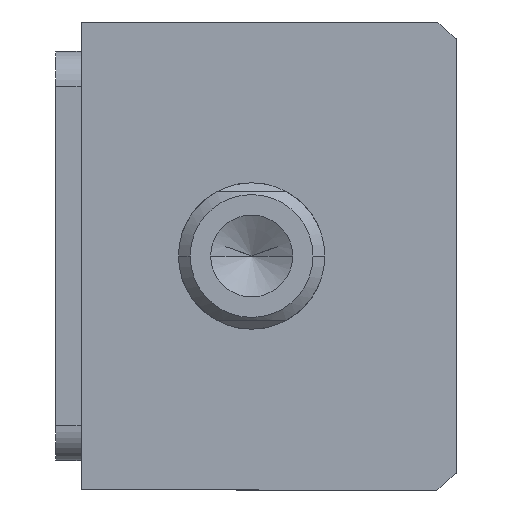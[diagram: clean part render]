
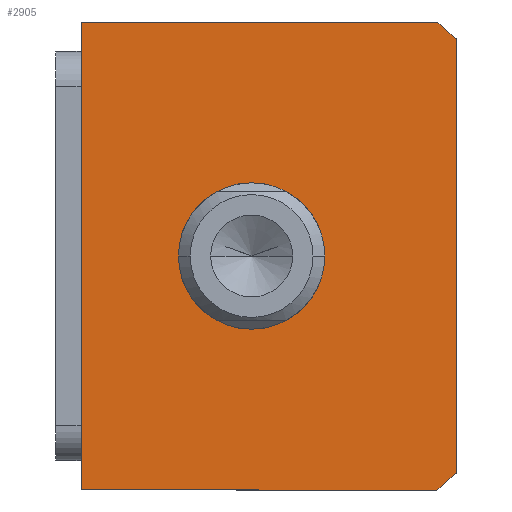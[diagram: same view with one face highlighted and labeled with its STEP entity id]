
A CAD part, front view. The second image highlights one B-rep face of the part: STEP entity #2905.
In plain terms, the highlighted planar face has unit normal (0, -1, 0) as drawn and (0, 0, -1) by its records, which use the part's own axes.
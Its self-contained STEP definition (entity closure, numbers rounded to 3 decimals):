
#63 = DIRECTION ( 'NONE',  ( 1., 0., 0. ) ) ;
#75 = EDGE_LOOP ( 'NONE', ( #6058, #1404, #879, #7527, #2909, #2636 ) ) ;
#106 = ORIENTED_EDGE ( 'NONE', *, *, #4242, .T. ) ;
#175 = VERTEX_POINT ( 'NONE', #2724 ) ;
#619 = VERTEX_POINT ( 'NONE', #7322 ) ;
#622 = AXIS2_PLACEMENT_3D ( 'NONE', #9047, #4139, #9883 ) ;
#760 = PLANE ( 'NONE',  #4430 ) ;
#879 = ORIENTED_EDGE ( 'NONE', *, *, #10485, .F. ) ;
#981 = DIRECTION ( 'NONE',  ( 0., 0., 1. ) ) ;
#1055 = EDGE_CURVE ( 'NONE', #619, #2353, #10554, .T. ) ;
#1089 = LINE ( 'NONE', #3718, #2532 ) ;
#1404 = ORIENTED_EDGE ( 'NONE', *, *, #1055, .F. ) ;
#1406 = LINE ( 'NONE', #5173, #8494 ) ;
#1492 = DIRECTION ( 'NONE',  ( 0., 0., 1. ) ) ;
#1531 = DIRECTION ( 'NONE',  ( 1., 0., 0. ) ) ;
#1641 = EDGE_CURVE ( 'NONE', #8469, #7618, #1089, .T. ) ;
#1870 = DIRECTION ( 'NONE',  ( -1., 0., 0. ) ) ;
#1878 = CARTESIAN_POINT ( 'NONE',  ( 40., -28.639, 0. ) ) ;
#1989 = CIRCLE ( 'NONE', #4909, 51. ) ;
#2353 = VERTEX_POINT ( 'NONE', #8328 ) ;
#2383 = CARTESIAN_POINT ( 'NONE',  ( 12.5, 3., 0. ) ) ;
#2418 = CARTESIAN_POINT ( 'NONE',  ( 0., 0., 0. ) ) ;
#2532 = VECTOR ( 'NONE', #4528, 1000. ) ;
#2636 = ORIENTED_EDGE ( 'NONE', *, *, #2800, .F. ) ;
#2724 = CARTESIAN_POINT ( 'NONE',  ( -12.5, 3., 0. ) ) ;
#2800 = EDGE_CURVE ( 'NONE', #5036, #9591, #5646, .T. ) ;
#2860 = VERTEX_POINT ( 'NONE', #2383 ) ;
#2905 = ADVANCED_FACE ( 'NONE', ( #5136, #7575 ), #760, .F. ) ;
#2909 = ORIENTED_EDGE ( 'NONE', *, *, #6379, .F. ) ;
#2963 = VECTOR ( 'NONE', #5506, 1000. ) ;
#3433 = DIRECTION ( 'NONE',  ( 0., 0., 1. ) ) ;
#3718 = CARTESIAN_POINT ( 'NONE',  ( 40., 32., 0. ) ) ;
#4048 = CARTESIAN_POINT ( 'NONE',  ( -37.094, -32., 0. ) ) ;
#4139 = DIRECTION ( 'NONE',  ( 0., 0., 1. ) ) ;
#4242 = EDGE_CURVE ( 'NONE', #2860, #175, #5508, .T. ) ;
#4289 = AXIS2_PLACEMENT_3D ( 'NONE', #8301, #3433, #9145 ) ;
#4430 = AXIS2_PLACEMENT_3D ( 'NONE', #2418, #1492, #1531 ) ;
#4528 = DIRECTION ( 'NONE',  ( 0., 1., 0. ) ) ;
#4909 = AXIS2_PLACEMENT_3D ( 'NONE', #5934, #981, #6755 ) ;
#5036 = VERTEX_POINT ( 'NONE', #4048 ) ;
#5047 = DIRECTION ( 'NONE',  ( 0., 0., 1. ) ) ;
#5136 = FACE_BOUND ( 'NONE', #7489, .T. ) ;
#5162 = CIRCLE ( 'NONE', #6339, 12.5 ) ;
#5173 = CARTESIAN_POINT ( 'NONE',  ( -40., 32., 0. ) ) ;
#5264 = CARTESIAN_POINT ( 'NONE',  ( -40., 32., 0. ) ) ;
#5437 = CARTESIAN_POINT ( 'NONE',  ( -40., -32., 0. ) ) ;
#5506 = DIRECTION ( 'NONE',  ( 1., 0., 0. ) ) ;
#5508 = CIRCLE ( 'NONE', #622, 12.5 ) ;
#5646 = LINE ( 'NONE', #5437, #2963 ) ;
#5796 = CIRCLE ( 'NONE', #4289, 51. ) ;
#5934 = CARTESIAN_POINT ( 'NONE',  ( 0., 3., 0. ) ) ;
#6036 = DIRECTION ( 'NONE',  ( 0., -1., 0. ) ) ;
#6058 = ORIENTED_EDGE ( 'NONE', *, *, #9182, .F. ) ;
#6139 = VECTOR ( 'NONE', #6036, 1000. ) ;
#6186 = ORIENTED_EDGE ( 'NONE', *, *, #9679, .T. ) ;
#6339 = AXIS2_PLACEMENT_3D ( 'NONE', #9988, #5047, #63 ) ;
#6379 = EDGE_CURVE ( 'NONE', #9591, #8469, #1989, .T. ) ;
#6385 = CARTESIAN_POINT ( 'NONE',  ( 40., 32., 0. ) ) ;
#6755 = DIRECTION ( 'NONE',  ( 1., 0., 0. ) ) ;
#7322 = CARTESIAN_POINT ( 'NONE',  ( -40., 32., 0. ) ) ;
#7376 = CARTESIAN_POINT ( 'NONE',  ( 37.094, -32., 0. ) ) ;
#7489 = EDGE_LOOP ( 'NONE', ( #106, #6186 ) ) ;
#7527 = ORIENTED_EDGE ( 'NONE', *, *, #1641, .F. ) ;
#7575 = FACE_OUTER_BOUND ( 'NONE', #75, .T. ) ;
#7618 = VERTEX_POINT ( 'NONE', #6385 ) ;
#8301 = CARTESIAN_POINT ( 'NONE',  ( 0., 3., 0. ) ) ;
#8328 = CARTESIAN_POINT ( 'NONE',  ( -40., -28.639, 0. ) ) ;
#8469 = VERTEX_POINT ( 'NONE', #1878 ) ;
#8494 = VECTOR ( 'NONE', #1870, 1000. ) ;
#9047 = CARTESIAN_POINT ( 'NONE',  ( 0., 3., 0. ) ) ;
#9145 = DIRECTION ( 'NONE',  ( 1., 0., 0. ) ) ;
#9182 = EDGE_CURVE ( 'NONE', #2353, #5036, #5796, .T. ) ;
#9591 = VERTEX_POINT ( 'NONE', #7376 ) ;
#9679 = EDGE_CURVE ( 'NONE', #175, #2860, #5162, .T. ) ;
#9883 = DIRECTION ( 'NONE',  ( 1., 0., 0. ) ) ;
#9988 = CARTESIAN_POINT ( 'NONE',  ( 0., 3., 0. ) ) ;
#10485 = EDGE_CURVE ( 'NONE', #7618, #619, #1406, .T. ) ;
#10554 = LINE ( 'NONE', #5264, #6139 ) ;
